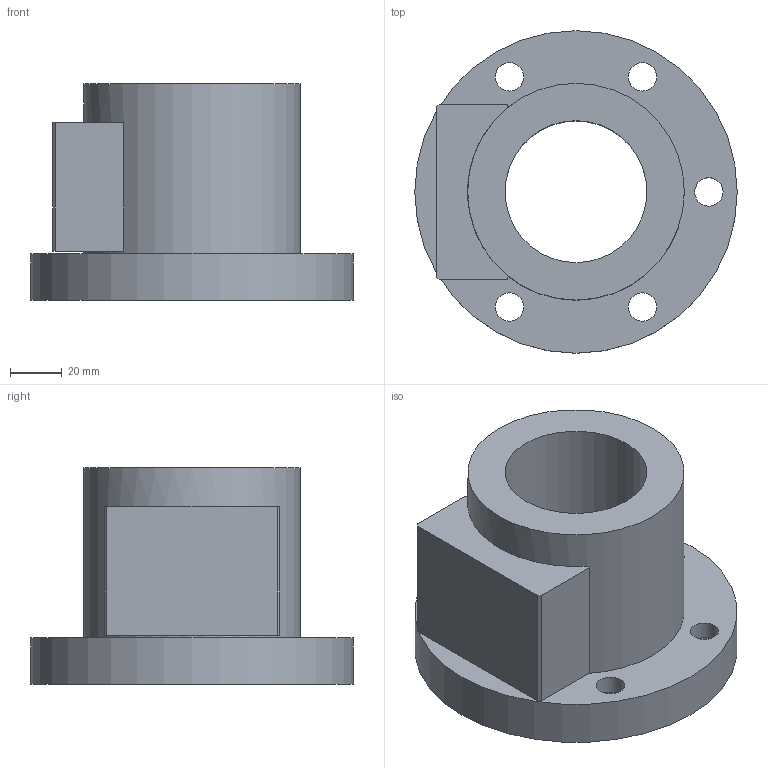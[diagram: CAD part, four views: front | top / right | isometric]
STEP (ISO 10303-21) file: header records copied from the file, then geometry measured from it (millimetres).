
FILE_DESCRIPTION(/* description */ (''),/* implementation_level */ '2;1');
FILE_NAME(/* name */ '55-10C1',/* time_stamp */ '2006-07-31T12:00:16+08:00',/* author */ (''),/* organization */ (''),/* preprocessor_version */ 'ST-DEVELOPER v9',/* originating_system */ 'UGS - NX 4.0',/* authorisation */ '');
FILE_SCHEMA (('CONFIG_CONTROL_DESIGN'));
Length unit declared in the file: millimetre
Products named in the file (1): 55-10C1
Bounding box: 125 x 125 x 84 mm (x, y, z)
Volume: 428826.6 mm3; surface area: 66910.1 mm2
Topology: 1 solids, 1 shells, 30 faces, 67 edges, 46 vertices
Faces by surface type: plane 17, cylinder 13
Full cylindrical faces by diameter (mm): 11 x5, 17.5 x5, 55 x1, 84 x1, 125 x1
Entity records: 860 total; most frequent: DIRECTION 140, CARTESIAN_POINT 123, ORIENTED_EDGE 100, EDGE_LOOP 62, AXIS2_PLACEMENT_3D 59, EDGE_CURVE 50, FACE_BOUND 45, VERTEX_POINT 42
